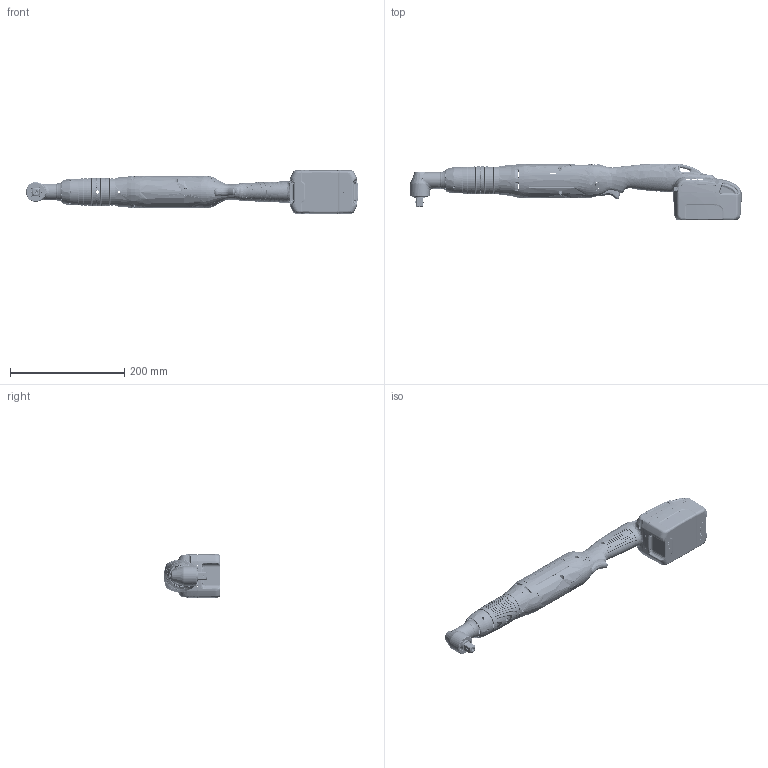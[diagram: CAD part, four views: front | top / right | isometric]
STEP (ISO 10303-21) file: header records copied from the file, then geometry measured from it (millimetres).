
FILE_DESCRIPTION((''),'2;1');
FILE_NAME('47532486001_ASM','2015-03-26T',('rryoung'),(''),'PRO/ENGINEER BY PARAMETRIC TECHNOLOGY CORPORATION, 2014430','PRO/ENGINEER BY PARAMETRIC TECHNOLOGY CORPORATION, 2014430','');
FILE_SCHEMA(('CONFIG_CONTROL_DESIGN'));
Products named in the file (43): 47518203001; 47518204001; 47518205001_ASM; 47525444001; 80120835; 80120678; 80133226_ASM; 03485844; 04341939; 03654712; 03654720; 03774866; 04009064; 03654381; 03133600; 03064201; 03072766; 03123999; 47527607001_ASM; 47511904001; 47511179001; 22041180; 24482051; 24586463; 45500642; 24260093_ASM; 24361370; 47522589001; 47523342001; 24279325; 47086400; 24435927; 47523342001_ASM; 47086434; 47518949001; 47113931; 47113949; 47518949001_ASM; 47513322001; 47516903001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
Assembly tree (45 placements, depth 4):
  47532486001_ASM
    47518205001_ASM
      47518203001
      47518204001
    47527607001_ASM
      47525444001
      80133226_ASM
        80120835
        80120678
      03485844
      04341939
      03654712
      03654720  x2
      03774866
      04009064
      03654381
      03133600
      03064201
      03072766
      03123999
    47511904001
    47511179001
    22041180
    24482051
    24260093_ASM
      24586463
      45500642
    24361370
    47522589001
    47523342001_ASM
      47523342001
      24279325
      47086400
      24435927
    47086434
    47518949001_ASM
      47518949001
      47113931
      47113949  x3
    47513322001
    47516903001
    47118229
    47118237
Bounding box: 581.79 x 99.82 x 78.15 mm (x, y, z)
Volume: 454132.5 mm3; surface area: 378386.2 mm2
Topology: 79 solids, 81 shells, 17315 faces, 43821 edges, 26530 vertices
Faces by surface type: plane 5115, bspline 5013, cylinder 4101, torus 1320, cone 789, extrusion 516, sphere 408, revolution 53
Entity records: 806992 total; most frequent: CARTESIAN_POINT 440986, ORIENTED_EDGE 86218, DIRECTION 60532, EDGE_CURVE 43109, VERTEX_POINT 26400, AXIS2_PLACEMENT_3D 22154, EDGE_LOOP 17843, B_SPLINE_CURVE_WITH_KNOTS 17642
